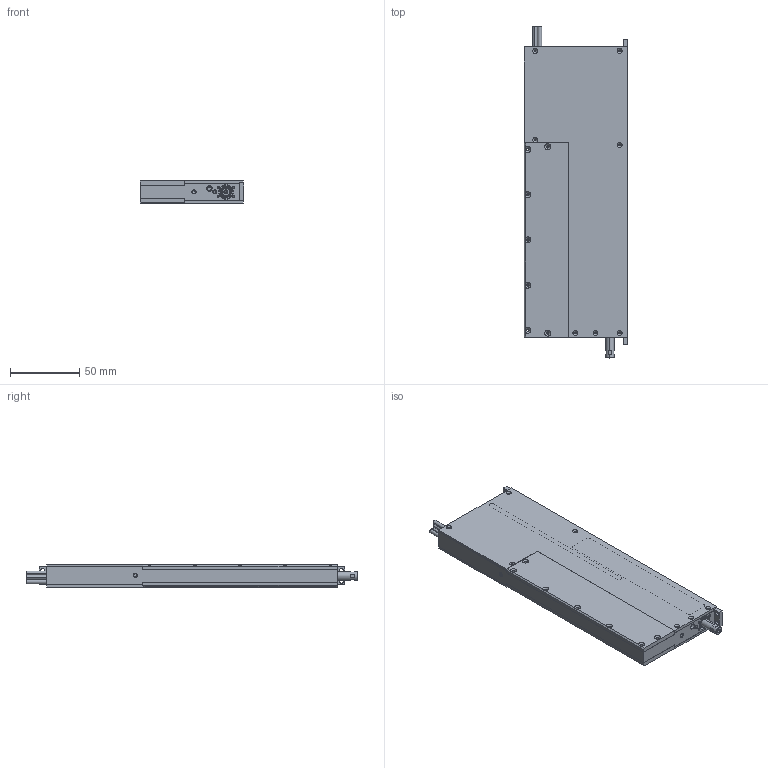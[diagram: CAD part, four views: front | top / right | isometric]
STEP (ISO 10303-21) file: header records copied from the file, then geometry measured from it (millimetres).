
FILE_DESCRIPTION (( 'STEP AP203' ), '1' );
FILE_NAME ('LCR16-050-XX-6_B.STEP', '2019-04-18T21:25:39', ( '' ), ( '' ), 'SwSTEP 2.0', 'SolidWorks 2018', '' );
FILE_SCHEMA (( 'CONFIG_CONTROL_DESIGN' ));
Length unit declared in the file: millimetre
Products named in the file (10): 14746-50_C; 11632-50_D; 23641-51_D; 24658-02_A; LCR16-050-XX-6_B; 16594-50_C; 180101-01_B; 23641-52_D; 14746-51_C; LCR13 DUM CABLE
Assembly tree (10 placements, depth 2):
  LCR16-050-XX-6_B
    11632-50_D
    24658-02_A
    180101-01_B
    LCR13 DUM CABLE  x2
    23641-51_D
    23641-52_D
    16594-50_C
    14746-50_C
    14746-51_C
Bounding box: 75 x 240 x 16 mm (x, y, z)
Volume: 110743.7 mm3; surface area: 111862.3 mm2
Topology: 14 solids, 14 shells, 803 faces, 2110 edges, 1294 vertices
Faces by surface type: cylinder 319, cone 253, plane 231
Entity records: 25738 total; most frequent: DIRECTION 4488, CARTESIAN_POINT 4395, ORIENTED_EDGE 4080, EDGE_CURVE 2040, AXIS2_PLACEMENT_3D 1673, VERTEX_POINT 1278, VECTOR 1142, LINE 1142
